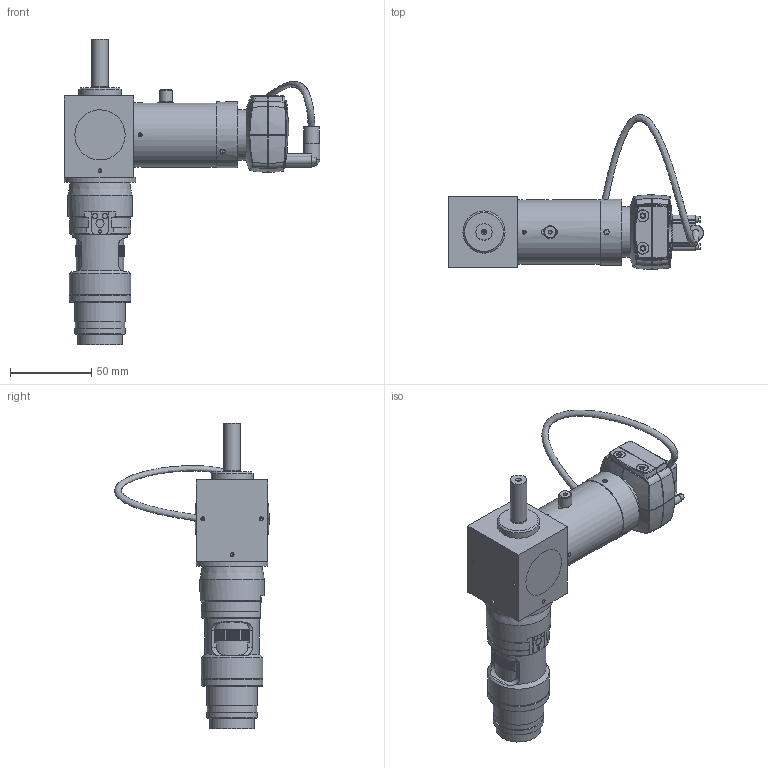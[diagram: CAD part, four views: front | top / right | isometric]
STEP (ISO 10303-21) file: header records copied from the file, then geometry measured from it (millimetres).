
FILE_DESCRIPTION(/* description */ (''),/* implementation_level */ '2;1');
FILE_NAME(/* name */ 'S:\Bureau-Technique\Vidéo\MA 730-Z1-C-054.stp',/* time_stamp */ '2017-03-30T08:58:06+02:00',/* author */ ('ms'),/* organization */ ('Marcel Aubert'),/* preprocessor_version */ 'ST-DEVELOPER v16.5',/* originating_system */ 'Autodesk Inventor 2017',/* authorisation */ '');
FILE_SCHEMA (('AUTOMOTIVE_DESIGN { 1 0 10303 214 3 1 1 }'));
Products named in the file (1): Pièce1
Bounding box: 157.46 x 95.43 x 188.4 mm (x, y, z)
Volume: 267588.4 mm3; surface area: 74122 mm2
Topology: 1 solids, 16 shells, 1208 faces, 3179 edges, 2084 vertices
Faces by surface type: plane 578, cylinder 359, bspline 125, cone 85, torus 41, sphere 20
Full cylindrical faces by diameter (mm): 1.6 x2, 1.88 x4, 2 x2, 2.3 x1, 2.459 x21, 2.5 x2, 3 x2, 3.2 x3, 3.242 x3, 3.5 x5, 3.9 x2, 4 x3, 5 x1, 6.7 x1, 7.1 x2, 7.4 x2, 7.9 x1, 9.5 x1, 9.7 x1, 10 x2, 18.5 x1, 19 x1, 19.188 x2, 20 x1, 22 x4, 22.5 x1, 22.7 x1, 22.9 x1, 24.3 x1, 24.4 x1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
Entity records: 48219 total; most frequent: CARTESIAN_POINT 18565, ORIENTED_EDGE 5814, DIRECTION 5757, EDGE_CURVE 2897, AXIS2_PLACEMENT_3D 2196, VERTEX_POINT 1996, EDGE_LOOP 1529, LINE 1365
